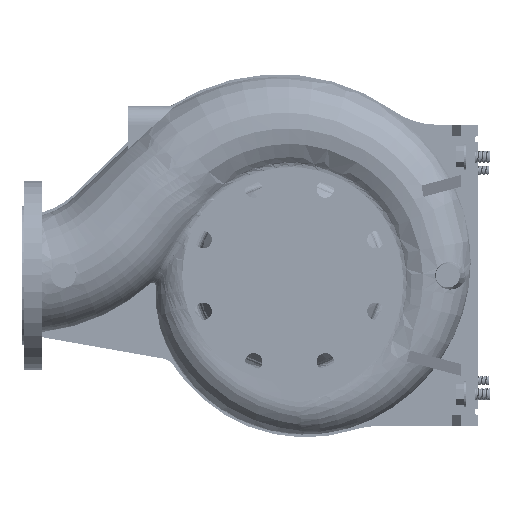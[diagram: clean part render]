
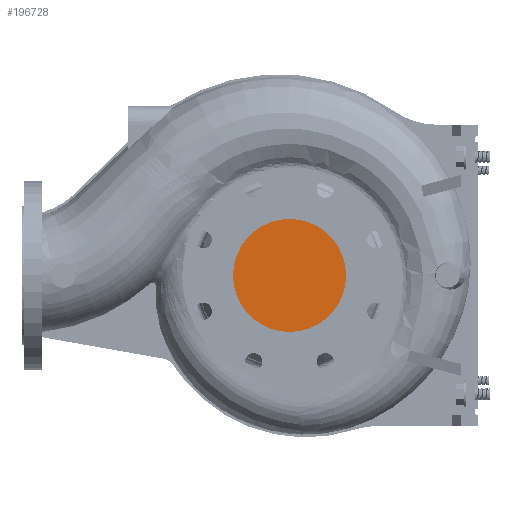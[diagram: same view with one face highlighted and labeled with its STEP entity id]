
A CAD part, left-side view. The second image highlights one B-rep face of the part: STEP entity #196728.
In plain terms, the highlighted planar face has unit normal (-1, 0, 0).
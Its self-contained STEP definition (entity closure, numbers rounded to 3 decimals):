
#9325 = VERTEX_POINT ( 'NONE', #201887 ) ;
#14133 = FACE_OUTER_BOUND ( 'NONE', #109948, .T. ) ;
#28513 = DIRECTION ( 'NONE',  ( 0., 0., 1. ) ) ;
#39832 = DIRECTION ( 'NONE',  ( 0., 0., 1. ) ) ;
#40102 = ORIENTED_EDGE ( 'NONE', *, *, #48402, .T. ) ;
#48402 = EDGE_CURVE ( 'NONE', #9325, #69056, #195802, .T. ) ;
#68961 = AXIS2_PLACEMENT_3D ( 'NONE', #229530, #130314, #28513 ) ;
#69056 = VERTEX_POINT ( 'NONE', #192783 ) ;
#72862 = PLANE ( 'NONE',  #68961 ) ;
#75508 = CARTESIAN_POINT ( 'NONE',  ( -130., 0., 0. ) ) ;
#108211 = EDGE_CURVE ( 'NONE', #69056, #9325, #233737, .T. ) ;
#108679 = AXIS2_PLACEMENT_3D ( 'NONE', #187445, #210909, #148239 ) ;
#109948 = EDGE_LOOP ( 'NONE', ( #40102, #252782 ) ) ;
#130314 = DIRECTION ( 'NONE',  ( -1., 0., 0. ) ) ;
#148239 = DIRECTION ( 'NONE',  ( 0., 0., 1. ) ) ;
#187445 = CARTESIAN_POINT ( 'NONE',  ( -130., 0., 0. ) ) ;
#192783 = CARTESIAN_POINT ( 'NONE',  ( -130., 0., -75. ) ) ;
#195802 = CIRCLE ( 'NONE', #249978, 75. ) ;
#196728 = ADVANCED_FACE ( 'NONE', ( #14133 ), #72862, .T. ) ;
#201887 = CARTESIAN_POINT ( 'NONE',  ( -130., 0., 75. ) ) ;
#210909 = DIRECTION ( 'NONE',  ( -1., 0., 0. ) ) ;
#218681 = DIRECTION ( 'NONE',  ( -1., 0., 0. ) ) ;
#229530 = CARTESIAN_POINT ( 'NONE',  ( -130., 0., 0. ) ) ;
#233737 = CIRCLE ( 'NONE', #108679, 75. ) ;
#249978 = AXIS2_PLACEMENT_3D ( 'NONE', #75508, #218681, #39832 ) ;
#252782 = ORIENTED_EDGE ( 'NONE', *, *, #108211, .T. ) ;
